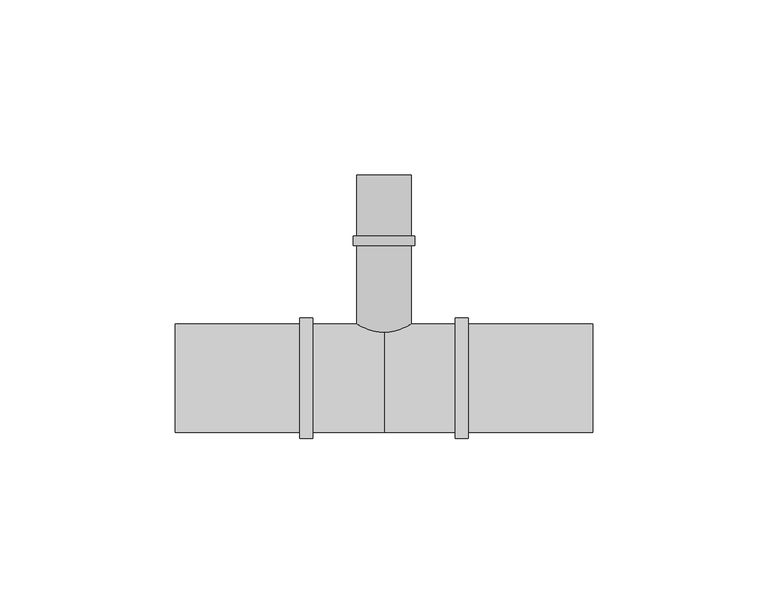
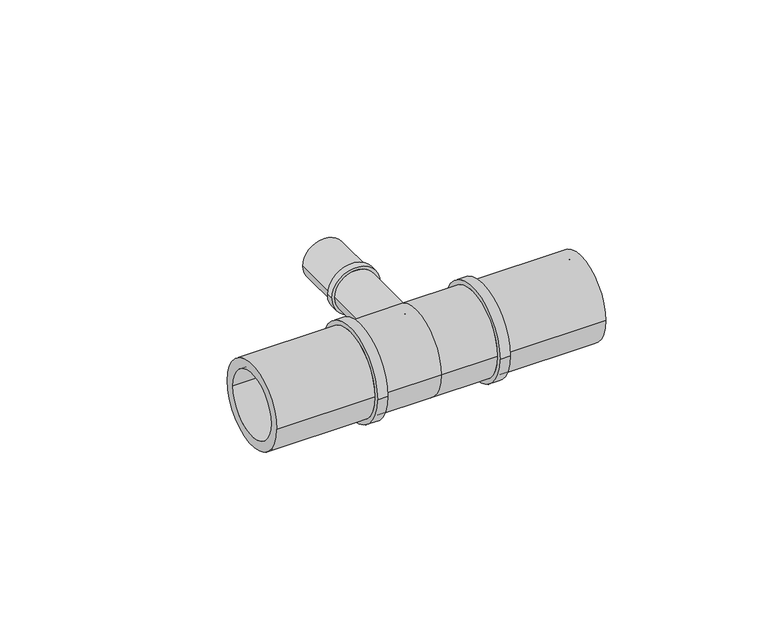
"""IFC4 building model written with IfcOpenShell, lengths in millimetres: pipe fitting geometry, FASTLOC_T-piece_LX : FSL T-Piece LX PL."""

from ifc_helpers import new_model, si_unit, frame, origin, place, context, project, spatial, polyline, circle_curve, source, transform, mapped, element, save
from ifc_brep_helpers import plane_surface, cylinder_surface, revolved_surface, advanced_brep


def pipe_fitting_42f006d8(model_context):
    return source(origin(), model_context, "Body", "AdvancedBrep", [
        advanced_brep(
        [(5.75, 57.9, 0.0), (-5.75, 57.9, 0.0), (-5.75, 0.0, 0.0), (5.75, 0.0, 0.0), (7.75, 0.0, 0.0), (-7.75, 0.0, 0.0), (-7.75, 37.83, 0.0), (7.75, 37.83, 0.0), (8.8, 37.83, 0.0), (-8.8, 37.83, 0.0), (-8.8, 40.5, 0.0), (8.8, 40.5, 0.0), (7.75, 40.5, 0.0), (-7.75, 40.5, 0.0), (-7.75, 57.9, 0.0), (7.75, 57.9, 0.0)],
        [
            (0, 1, circle_curve(frame((0.0, 57.9, 0.0), z_axis=(0.0, 1.0, 0.0), x_axis=(-1.0, 0.0, 0.0)), 5.75)),
            (1, 2),
            (2, 3, circle_curve(frame((0.0, 0.0, 0.0), z_axis=(0.0, -1.0, 0.0), x_axis=(-1.0, 0.0, 0.0)), 5.75)),
            (3, 0),
            (4, 5, circle_curve(frame((0.0, 0.0, 0.0), z_axis=(0.0, 1.0, 0.0), x_axis=(-1.0, 0.0, 0.0)), 7.75)),
            (5, 6),
            (6, 7, circle_curve(frame((0.0, 37.83, 0.0), z_axis=(0.0, -1.0, 0.0), x_axis=(-1.0, 0.0, 0.0)), 7.75)),
            (7, 4),
            (8, 9, circle_curve(frame((0.0, 37.83, 0.0), z_axis=(0.0, 1.0, 0.0), x_axis=(-1.0, 0.0, 0.0)), 8.8)),
            (9, 10),
            (10, 11, circle_curve(frame((0.0, 40.5, 0.0), z_axis=(0.0, -1.0, 0.0), x_axis=(-1.0, 0.0, 0.0)), 8.8)),
            (11, 8),
            (12, 13, circle_curve(frame((0.0, 40.5, 0.0), z_axis=(0.0, 1.0, 0.0), x_axis=(-1.0, 0.0, 0.0)), 7.75)),
            (13, 14),
            (14, 15, circle_curve(frame((0.0, 57.9, 0.0), z_axis=(0.0, -1.0, 0.0), x_axis=(-1.0, 0.0, 0.0)), 7.75)),
            (15, 12),
            (1, 0, circle_curve(frame((0.0, 57.9, 0.0), z_axis=(0.0, 1.0, 0.0), x_axis=(1.0, 0.0, 0.0)), 5.75)),
            (3, 2, circle_curve(frame((0.0, 0.0, 0.0), z_axis=(0.0, -1.0, 0.0), x_axis=(1.0, 0.0, 0.0)), 5.75)),
            (4, 5, circle_curve(frame((0.0, 0.0, 0.0), z_axis=(0.0, -1.0, 0.0), x_axis=(1.0, 0.0, 0.0)), 7.75)),
            (7, 6, circle_curve(frame((0.0, 37.83, 0.0), z_axis=(0.0, -1.0, 0.0), x_axis=(1.0, 0.0, 0.0)), 7.75)),
            (8, 9, circle_curve(frame((0.0, 37.83, 0.0), z_axis=(0.0, -1.0, 0.0), x_axis=(1.0, 0.0, 0.0)), 8.8)),
            (11, 10, circle_curve(frame((0.0, 40.5, 0.0), z_axis=(0.0, -1.0, 0.0), x_axis=(1.0, 0.0, 0.0)), 8.8)),
            (12, 13, circle_curve(frame((0.0, 40.5, 0.0), z_axis=(0.0, -1.0, 0.0), x_axis=(1.0, 0.0, 0.0)), 7.75)),
            (15, 14, circle_curve(frame((0.0, 57.9, 0.0), z_axis=(0.0, -1.0, 0.0), x_axis=(1.0, 0.0, 0.0)), 7.75)),
        ],
        [
            revolved_surface(polyline([(-5.75, 0.0, 0.0), (-5.75, 57.9, 0.0)]), (0.0, 0.0, 0.0), (0.0, -1.0, 0.0)),
            cylinder_surface(frame((0.0, 0.0, 0.0), z_axis=(0.0, -1.0, 0.0), x_axis=(-1.0, 0.0, 0.0)), 7.75),
            cylinder_surface(frame((0.0, 0.0, 0.0), z_axis=(0.0, -1.0, 0.0), x_axis=(-1.0, 0.0, 0.0)), 8.8),
            revolved_surface(polyline([(5.75, 0.0, 0.0), (5.75, 57.9, 0.0)]), (0.0, 0.0, 0.0), (0.0, -1.0, 0.0)),
            plane_surface(frame((0.0, 0.0, 0.0), z_axis=(0.0, -1.0, 0.0), x_axis=(1.0, 0.0, 0.0))),
            cylinder_surface(frame((0.0, 0.0, 0.0), z_axis=(0.0, -1.0, 0.0), x_axis=(1.0, 0.0, 0.0)), 7.75),
            plane_surface(frame((0.0, 37.83, 0.0), z_axis=(0.0, -1.0, 0.0), x_axis=(1.0, 0.0, 0.0))),
            cylinder_surface(frame((0.0, 0.0, 0.0), z_axis=(0.0, -1.0, 0.0), x_axis=(1.0, 0.0, 0.0)), 8.8),
            plane_surface(frame((0.0, 40.5, 0.0), z_axis=(0.0, 1.0, 0.0), x_axis=(1.0, 0.0, 0.0))),
            plane_surface(frame((0.0, 57.9, 0.0), z_axis=(0.0, 1.0, 0.0), x_axis=(1.0, 0.0, 0.0))),
        ],
        [
            (0, [[1, 2, 3, 4]]),
            (1, [[5, 6, 7, 8]]),
            (2, [[9, 10, 11, 12]]),
            (1, [[13, 14, 15, 16]]),
            (3, [[17, -4, 18, -2]]),
            (4, [[19, -5], [-18, -3]]),
            (5, [[-19, -8, 20, -6]]),
            (6, [[21, -9], [-20, -7]]),
            (7, [[-21, -12, 22, -10]]),
            (8, [[-22, -11], [23, -13]]),
            (5, [[-23, -16, 24, -14]]),
            (9, [[-24, -15], [-17, -1]]),
        ],
    ),
        advanced_brep(
        [(0.0, 15.5, 0.0), (0.0, -15.5, 0.0), (-20.3, -15.5, 0.0), (-20.3, 15.5, 0.0), (20.3, 15.5, 0.0), (20.3, -15.5, 0.0), (24.0, 17.2, 0.0), (24.0, -17.2, 0.0), (20.3, -17.2, 0.0), (20.3, 17.2, 0.0), (59.5, 15.5, 0.0), (59.5, -15.5, 0.0), (24.0, -15.5, 0.0), (24.0, 15.5, 0.0), (-24.0, 15.5, 0.0), (-24.0, -15.5, 0.0), (-59.5, -15.5, 0.0), (-59.5, 15.5, 0.0), (-20.3, 17.2, 0.0), (-20.3, -17.2, 0.0), (-24.0, -17.2, 0.0), (-24.0, 17.2, 0.0), (59.5, -11.95, 0.0), (59.5, 11.95, 0.0), (-59.5, 11.95, 0.0), (-59.5, -11.95, 0.0), (0.0, 11.95, 0.0), (0.0, -11.95, 0.0)],
        [
            (0, 1, circle_curve(frame((0.0, 0.0, 0.0), z_axis=(-1.0, 0.0, 0.0), x_axis=(0.0, -1.0, 0.0)), 15.5)),
            (1, 2),
            (2, 3, circle_curve(frame((-20.3, 0.0, 0.0), z_axis=(1.0, 0.0, 0.0), x_axis=(0.0, -1.0, 0.0)), 15.5)),
            (3, 0),
            (4, 5, circle_curve(frame((20.3, 0.0, 0.0), z_axis=(-1.0, 0.0, 0.0), x_axis=(0.0, -1.0, 0.0)), 15.5)),
            (5, 1),
            (0, 4),
            (6, 7, circle_curve(frame((24.0, 0.0, 0.0), z_axis=(-1.0, 0.0, 0.0), x_axis=(0.0, -1.0, 0.0)), 17.2)),
            (7, 8),
            (8, 9, circle_curve(frame((20.3, 0.0, 0.0), z_axis=(1.0, 0.0, 0.0), x_axis=(0.0, -1.0, 0.0)), 17.2)),
            (9, 6),
            (10, 11, circle_curve(frame((59.5, 0.0, 0.0), z_axis=(-1.0, 0.0, 0.0), x_axis=(0.0, -1.0, 0.0)), 15.5)),
            (11, 12),
            (12, 13, circle_curve(frame((24.0, 0.0, 0.0), z_axis=(1.0, 0.0, 0.0), x_axis=(0.0, -1.0, 0.0)), 15.5)),
            (13, 10),
            (14, 15, circle_curve(frame((-24.0, 0.0, 0.0), z_axis=(-1.0, 0.0, 0.0), x_axis=(0.0, -1.0, 0.0)), 15.5)),
            (15, 16),
            (16, 17, circle_curve(frame((-59.5, 0.0, 0.0), z_axis=(1.0, 0.0, 0.0), x_axis=(0.0, -1.0, 0.0)), 15.5)),
            (17, 14),
            (18, 19, circle_curve(frame((-20.3, 0.0, 0.0), z_axis=(-1.0, 0.0, 0.0), x_axis=(0.0, -1.0, 0.0)), 17.2)),
            (19, 20),
            (20, 21, circle_curve(frame((-24.0, 0.0, 0.0), z_axis=(1.0, 0.0, 0.0), x_axis=(0.0, -1.0, 0.0)), 17.2)),
            (21, 18),
            (18, 19, circle_curve(frame((-20.3, 0.0, 0.0), z_axis=(1.0, 0.0, 0.0), x_axis=(0.0, 1.0, 0.0)), 17.2)),
            (2, 3, circle_curve(frame((-20.3, 0.0, 0.0), z_axis=(-1.0, 0.0, 0.0), x_axis=(0.0, 1.0, 0.0)), 15.5)),
            (1, 0, circle_curve(frame((0.0, 0.0, 0.0), z_axis=(-1.0, 0.0, 0.0), x_axis=(0.0, 1.0, 0.0)), 15.5)),
            (5, 4, circle_curve(frame((20.3, 0.0, 0.0), z_axis=(-1.0, 0.0, 0.0), x_axis=(0.0, 1.0, 0.0)), 15.5)),
            (8, 9, circle_curve(frame((20.3, 0.0, 0.0), z_axis=(-1.0, 0.0, 0.0), x_axis=(0.0, 1.0, 0.0)), 17.2)),
            (7, 6, circle_curve(frame((24.0, 0.0, 0.0), z_axis=(-1.0, 0.0, 0.0), x_axis=(0.0, 1.0, 0.0)), 17.2)),
            (12, 13, circle_curve(frame((24.0, 0.0, 0.0), z_axis=(-1.0, 0.0, 0.0), x_axis=(0.0, 1.0, 0.0)), 15.5)),
            (11, 10, circle_curve(frame((59.5, 0.0, 0.0), z_axis=(-1.0, 0.0, 0.0), x_axis=(0.0, 1.0, 0.0)), 15.5)),
            (22, 23, circle_curve(frame((59.5, 0.0, 0.0), z_axis=(-1.0, 0.0, 0.0), x_axis=(0.0, 1.0, 0.0)), 11.95)),
            (23, 22, circle_curve(frame((59.5, 0.0, 0.0), z_axis=(-1.0, 0.0, 0.0), x_axis=(0.0, -1.0, 0.0)), 11.95)),
            (16, 17, circle_curve(frame((-59.5, 0.0, 0.0), z_axis=(-1.0, 0.0, 0.0), x_axis=(0.0, 1.0, 0.0)), 15.5)),
            (24, 25, circle_curve(frame((-59.5, 0.0, 0.0), z_axis=(1.0, 0.0, 0.0), x_axis=(0.0, 1.0, 0.0)), 11.95)),
            (25, 24, circle_curve(frame((-59.5, 0.0, 0.0), z_axis=(1.0, 0.0, 0.0), x_axis=(0.0, -1.0, 0.0)), 11.95)),
            (15, 14, circle_curve(frame((-24.0, 0.0, 0.0), z_axis=(-1.0, 0.0, 0.0), x_axis=(0.0, 1.0, 0.0)), 15.5)),
            (20, 21, circle_curve(frame((-24.0, 0.0, 0.0), z_axis=(-1.0, 0.0, 0.0), x_axis=(0.0, 1.0, 0.0)), 17.2)),
            (26, 27, circle_curve(frame((0.0, 0.0, 0.0), z_axis=(-1.0, 0.0, 0.0), x_axis=(0.0, -1.0, 0.0)), 11.95)),
            (27, 22),
            (23, 26),
            (25, 27),
            (26, 24),
            (27, 26, circle_curve(frame((0.0, 0.0, 0.0), z_axis=(-1.0, 0.0, 0.0), x_axis=(0.0, 1.0, 0.0)), 11.95)),
        ],
        [
            cylinder_surface(frame((0.0, 0.0, 0.0), z_axis=(1.0, 0.0, 0.0), x_axis=(0.0, -1.0, 0.0)), 15.5),
            cylinder_surface(frame((0.0, 0.0, 0.0), z_axis=(1.0, 0.0, 0.0), x_axis=(0.0, -1.0, 0.0)), 17.2),
            plane_surface(frame((-20.3, 0.0, 0.0), z_axis=(1.0, 0.0, 0.0), x_axis=(0.0, 1.0, 0.0))),
            cylinder_surface(frame((0.0, 0.0, 0.0), z_axis=(1.0, 0.0, 0.0), x_axis=(0.0, 1.0, 0.0)), 15.5),
            plane_surface(frame((20.3, 0.0, 0.0), z_axis=(-1.0, 0.0, 0.0), x_axis=(0.0, 1.0, 0.0))),
            cylinder_surface(frame((0.0, 0.0, 0.0), z_axis=(1.0, 0.0, 0.0), x_axis=(0.0, 1.0, 0.0)), 17.2),
            plane_surface(frame((24.0, 0.0, 0.0), z_axis=(1.0, 0.0, 0.0), x_axis=(0.0, 1.0, 0.0))),
            plane_surface(frame((59.5, 0.0, 0.0), z_axis=(1.0, 0.0, 0.0), x_axis=(0.0, 1.0, 0.0))),
            plane_surface(frame((-59.5, 0.0, 0.0), z_axis=(-1.0, 0.0, 0.0), x_axis=(0.0, 1.0, 0.0))),
            plane_surface(frame((-24.0, 0.0, 0.0), z_axis=(-1.0, 0.0, 0.0), x_axis=(0.0, 1.0, 0.0))),
            revolved_surface(polyline([(59.5, -11.95, 0.0), (0.0, -11.95, 0.0)]), (0.0, 0.0, 0.0), (1.0, 0.0, 0.0)),
            revolved_surface(polyline([(0.0, -11.95, 0.0), (-59.5, -11.95, 0.0)]), (0.0, 0.0, 0.0), (1.0, 0.0, 0.0)),
            revolved_surface(polyline([(59.5, 11.95, 0.0), (0.0, 11.95, 0.0)]), (0.0, 0.0, 0.0), (1.0, 0.0, 0.0)),
            revolved_surface(polyline([(0.0, 11.95, 0.0), (-59.5, 11.95, 0.0)]), (0.0, 0.0, 0.0), (1.0, 0.0, 0.0)),
        ],
        [
            (0, [[1, 2, 3, 4]]),
            (0, [[5, 6, -1, 7]]),
            (1, [[8, 9, 10, 11]]),
            (0, [[12, 13, 14, 15]]),
            (0, [[16, 17, 18, 19]]),
            (1, [[20, 21, 22, 23]]),
            (2, [[24, -20], [25, -3]]),
            (3, [[26, -4, -25, -2]]),
            (3, [[27, -7, -26, -6]]),
            (4, [[28, -10], [-27, -5]]),
            (5, [[29, -11, -28, -9]]),
            (6, [[-29, -8], [30, -14]]),
            (3, [[31, -15, -30, -13]]),
            (7, [[-31, -12], [32, 33]]),
            (8, [[34, -18], [35, 36]]),
            (3, [[37, -19, -34, -17]]),
            (9, [[38, -22], [-37, -16]]),
            (5, [[-24, -23, -38, -21]]),
            (10, [[39, 40, -33, 41]]),
            (11, [[-36, 42, -39, 43]]),
            (12, [[44, -41, -32, -40]]),
            (13, [[-35, -43, -44, -42]]),
        ],
    ),
    ])


if __name__ == "__main__":
    model = new_model("IFC4")
    model_context = context("Model", 3, world=origin())
    ifc_project = project(units=[si_unit("LENGTHUNIT", "METRE", prefix="MILLI")], contexts=[model_context])
    site = spatial("IfcSite", under=ifc_project)
    building = spatial("IfcBuilding", under=site)
    placement = place(None, origin())
    pipe_fitting_shape = pipe_fitting_42f006d8(model_context)
    element("IfcPipeFitting", 1, ObjectType="FASTLOC_T-piece_LX : FSL T-Piece LX PL", at=placement, inside=building, context=model_context, shape_type="MappedRepresentation", body=[
        mapped(pipe_fitting_shape, transform((0.0, 0.0, 0.0), x_axis=(1.0, 0.0, 0.0), y_axis=(0.0, 1.0, 0.0), z_axis=(0.0, 0.0, 1.0))),
    ])
    save(model, "model.ifc")
